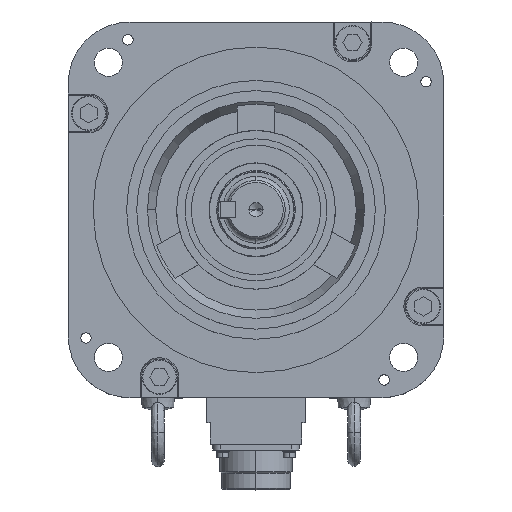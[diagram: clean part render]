
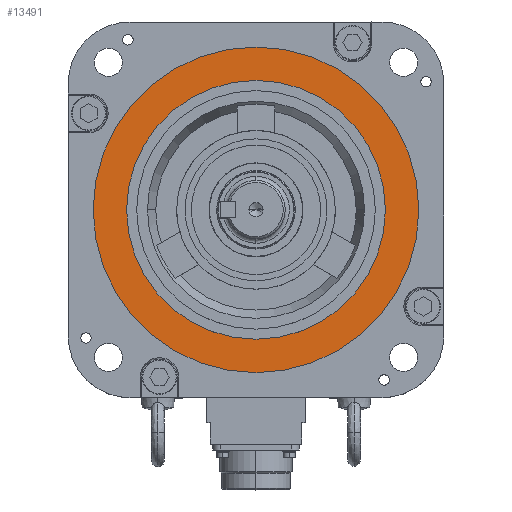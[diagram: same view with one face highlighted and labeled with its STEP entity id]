
A CAD part, top view. The second image highlights one B-rep face of the part: STEP entity #13491.
In plain terms, the highlighted planar face has unit normal (0, 0, 1).
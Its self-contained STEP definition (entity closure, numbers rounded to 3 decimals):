
#632 = ORIENTED_EDGE ( 'NONE', *, *, #40084, .T. ) ;
#2485 = EDGE_LOOP ( 'NONE', ( #24429, #632 ) ) ;
#4528 = VERTEX_POINT ( 'NONE', #26094 ) ;
#5011 = CARTESIAN_POINT ( 'NONE',  ( -78.936, -78.936, -0.5 ) ) ;
#5423 = FACE_BOUND ( 'NONE', #2485, .T. ) ;
#5622 = DIRECTION ( 'NONE',  ( 0., 0., 1. ) ) ;
#5696 = VERTEX_POINT ( 'NONE', #39819 ) ;
#7023 = CARTESIAN_POINT ( 'NONE',  ( -78., 0., -0.5 ) ) ;
#7953 = DIRECTION ( 'NONE',  ( 1., 0., 0. ) ) ;
#8970 = DIRECTION ( 'NONE',  ( 1., 0., 0. ) ) ;
#12065 = EDGE_LOOP ( 'NONE', ( #12483, #39887 ) ) ;
#12446 = CIRCLE ( 'NONE', #23144, 78. ) ;
#12483 = ORIENTED_EDGE ( 'NONE', *, *, #13518, .T. ) ;
#12617 = CARTESIAN_POINT ( 'NONE',  ( 62., 0., -0.5 ) ) ;
#12926 = AXIS2_PLACEMENT_3D ( 'NONE', #16786, #26442, #32575 ) ;
#13060 = CARTESIAN_POINT ( 'NONE',  ( 0., 0., -0.5 ) ) ;
#13491 = ADVANCED_FACE ( 'NONE', ( #40215, #5423 ), #24439, .T. ) ;
#13518 = EDGE_CURVE ( 'NONE', #5696, #33437, #40387, .T. ) ;
#15824 = EDGE_CURVE ( 'NONE', #33437, #5696, #12446, .T. ) ;
#16786 = CARTESIAN_POINT ( 'NONE',  ( 0., 0., -0.5 ) ) ;
#20261 = AXIS2_PLACEMENT_3D ( 'NONE', #30549, #40019, #31167 ) ;
#23144 = AXIS2_PLACEMENT_3D ( 'NONE', #27420, #30584, #8970 ) ;
#24429 = ORIENTED_EDGE ( 'NONE', *, *, #26234, .T. ) ;
#24439 = PLANE ( 'NONE',  #27621 ) ;
#24961 = CIRCLE ( 'NONE', #12926, 62. ) ;
#25829 = DIRECTION ( 'NONE',  ( 0., 0., -1. ) ) ;
#26094 = CARTESIAN_POINT ( 'NONE',  ( -62., 0., -0.5 ) ) ;
#26234 = EDGE_CURVE ( 'NONE', #4528, #29627, #28705, .T. ) ;
#26442 = DIRECTION ( 'NONE',  ( 0., 0., -1. ) ) ;
#27420 = CARTESIAN_POINT ( 'NONE',  ( 0., 0., -0.5 ) ) ;
#27621 = AXIS2_PLACEMENT_3D ( 'NONE', #5011, #5622, #7953 ) ;
#28705 = CIRCLE ( 'NONE', #30740, 62. ) ;
#29627 = VERTEX_POINT ( 'NONE', #12617 ) ;
#30549 = CARTESIAN_POINT ( 'NONE',  ( 0., 0., -0.5 ) ) ;
#30584 = DIRECTION ( 'NONE',  ( 0., 0., 1. ) ) ;
#30740 = AXIS2_PLACEMENT_3D ( 'NONE', #13060, #25829, #35515 ) ;
#31167 = DIRECTION ( 'NONE',  ( 1., 0., 0. ) ) ;
#32575 = DIRECTION ( 'NONE',  ( -1., 0., 0. ) ) ;
#33437 = VERTEX_POINT ( 'NONE', #7023 ) ;
#35515 = DIRECTION ( 'NONE',  ( -1., 0., 0. ) ) ;
#39819 = CARTESIAN_POINT ( 'NONE',  ( 78., 0., -0.5 ) ) ;
#39887 = ORIENTED_EDGE ( 'NONE', *, *, #15824, .T. ) ;
#40019 = DIRECTION ( 'NONE',  ( 0., 0., 1. ) ) ;
#40084 = EDGE_CURVE ( 'NONE', #29627, #4528, #24961, .T. ) ;
#40215 = FACE_OUTER_BOUND ( 'NONE', #12065, .T. ) ;
#40387 = CIRCLE ( 'NONE', #20261, 78. ) ;
